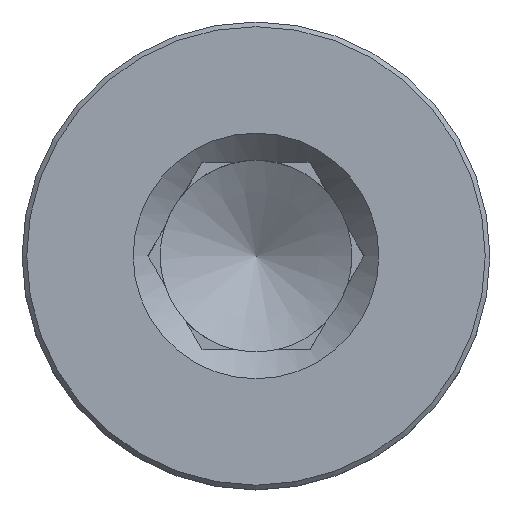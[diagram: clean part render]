
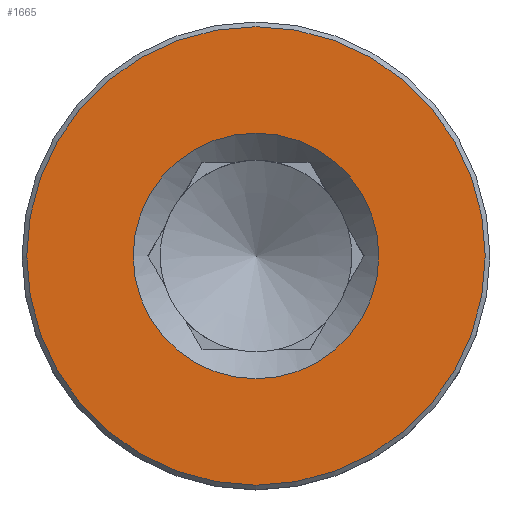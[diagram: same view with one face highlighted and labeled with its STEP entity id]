
A CAD part, top view. The second image highlights one B-rep face of the part: STEP entity #1665.
In plain terms, the highlighted planar face has unit normal (0, 0, 1) as drawn and (1, 0, 0) by its records, which use the part's own axes.
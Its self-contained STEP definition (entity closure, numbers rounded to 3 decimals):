
#816=PLANE('',#1595);
#856=ORIENTED_EDGE('',*,*,#1064,.T.);
#857=ORIENTED_EDGE('',*,*,#1065,.F.);
#985=CIRCLE('',#1594,9.8);
#986=CIRCLE('',#1596,5.25);
#1012=VERTEX_POINT('',#1445);
#1013=VERTEX_POINT('',#1448);
#1064=EDGE_CURVE('',#1012,#1012,#985,.T.);
#1065=EDGE_CURVE('',#1013,#1013,#986,.T.);
#1142=EDGE_LOOP('',(#856));
#1143=EDGE_LOOP('',(#857));
#1192=FACE_BOUND('',#1142,.T.);
#1193=FACE_BOUND('',#1143,.T.);
#1268=DIRECTION('',(1.,0.,0.));
#1269=DIRECTION('',(0.,0.,9.8));
#1270=DIRECTION('',(1.,0.,0.));
#1271=DIRECTION('',(0.,-1.,0.));
#1272=DIRECTION('',(1.,0.,0.));
#1273=DIRECTION('',(0.,0.,-5.25));
#1445=CARTESIAN_POINT('',(3.5,0.,9.8));
#1446=CARTESIAN_POINT('',(3.5,0.,0.));
#1447=CARTESIAN_POINT('',(3.5,9.8,0.));
#1448=CARTESIAN_POINT('',(3.5,0.,-5.25));
#1449=CARTESIAN_POINT('',(3.5,0.,0.));
#1594=AXIS2_PLACEMENT_3D('',#1446,#1268,#1269);
#1595=AXIS2_PLACEMENT_3D('',#1447,#1270,#1271);
#1596=AXIS2_PLACEMENT_3D('',#1449,#1272,#1273);
#1665=ADVANCED_FACE('',(#1192,#1193),#816,.T.);
